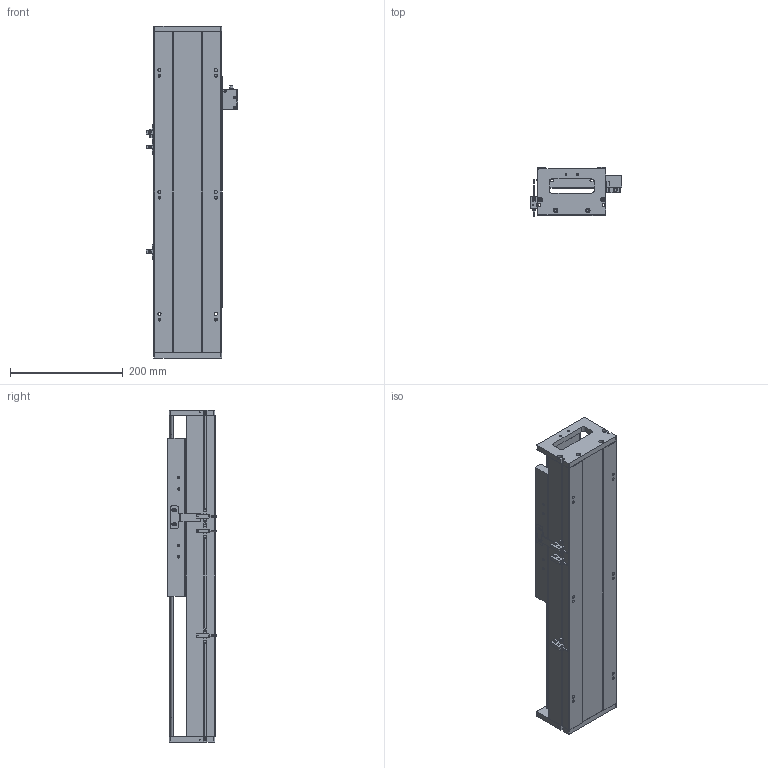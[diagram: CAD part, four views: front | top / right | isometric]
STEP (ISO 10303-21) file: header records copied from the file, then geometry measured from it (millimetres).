
FILE_DESCRIPTION (( 'STEP AP203' ), '1' );
FILE_NAME ('SKR12S-C2-S208（简）.STEP', '2022-09-26T03:11:11', ( '' ), ( '' ), 'SwSTEP 2.0', 'SolidWorks 2018', '' );
FILE_SCHEMA (( 'CONFIG_CONTROL_DESIGN' ));
Length unit declared in the file: millimetre
Products named in the file (8): SKR12滑台-280L（简）; SKR12耜啣; SIKO棠掑; 覜茼え; 棠掑假蚾輸; SKR12菁釱-C2-S208(潠); EE-SX672; SKR12S-C2-S208（简）
Assembly tree (10 placements, depth 2):
  SKR12S-C2-S208（简）
    SKR12菁釱-C2-S208(潠)
    SKR12滑台-280L（简）
    SKR12耜啣  x2
    棠掑假蚾輸
    SIKO棠掑
    EE-SX672  x3
    覜茼え
Bounding box: 162.7 x 87.3 x 588 mm (x, y, z)
Volume: 3187301.9 mm3; surface area: 538859.8 mm2
Topology: 11 solids, 11 shells, 906 faces, 2393 edges, 1515 vertices
Faces by surface type: cylinder 396, plane 388, cone 122
Entity records: 23931 total; most frequent: CARTESIAN_POINT 4471, DIRECTION 4037, ORIENTED_EDGE 3774, EDGE_CURVE 1887, AXIS2_PLACEMENT_3D 1481, VERTEX_POINT 1219, LINE 1075, VECTOR 1075
